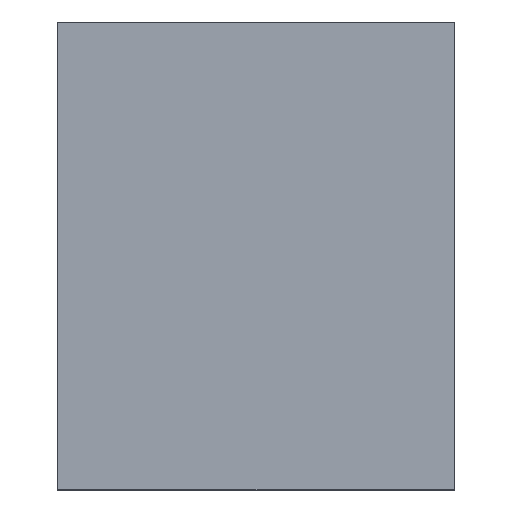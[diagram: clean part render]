
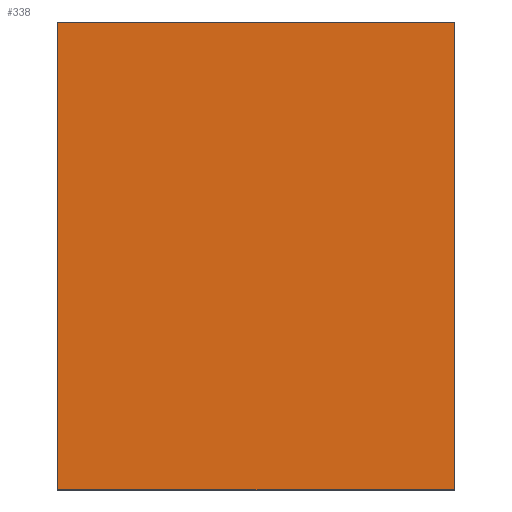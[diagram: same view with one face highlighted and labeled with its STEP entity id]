
A CAD part, top view. The second image highlights one B-rep face of the part: STEP entity #338.
In plain terms, the highlighted planar face has unit normal (0, 0, 1).
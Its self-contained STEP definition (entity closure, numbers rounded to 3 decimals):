
#24 = VERTEX_POINT('',#25);
#25 = CARTESIAN_POINT('',(-8.9,-10.5,3.2));
#32 = PLANE('',#33);
#33 = AXIS2_PLACEMENT_3D('',#34,#35,#36);
#34 = CARTESIAN_POINT('',(-8.9,-10.5,0.));
#35 = DIRECTION('',(1.,0.,0.));
#36 = DIRECTION('',(0.,0.,1.));
#44 = PLANE('',#45);
#45 = AXIS2_PLACEMENT_3D('',#46,#47,#48);
#46 = CARTESIAN_POINT('',(-8.9,-10.5,0.));
#47 = DIRECTION('',(0.,1.,0.));
#48 = DIRECTION('',(0.,0.,1.));
#85 = VERTEX_POINT('',#86);
#86 = CARTESIAN_POINT('',(-8.9,10.5,3.2));
#100 = PLANE('',#101);
#101 = AXIS2_PLACEMENT_3D('',#102,#103,#104);
#102 = CARTESIAN_POINT('',(-8.9,10.5,0.));
#103 = DIRECTION('',(0.,1.,0.));
#104 = DIRECTION('',(0.,0.,1.));
#112 = EDGE_CURVE('',#24,#85,#113,.T.);
#113 = SURFACE_CURVE('',#114,(#118,#125),.PCURVE_S1.);
#114 = LINE('',#115,#116);
#115 = CARTESIAN_POINT('',(-8.9,-10.5,3.2));
#116 = VECTOR('',#117,1.);
#117 = DIRECTION('',(0.,1.,0.));
#118 = PCURVE('',#32,#119);
#119 = DEFINITIONAL_REPRESENTATION('',(#120),#124);
#120 = LINE('',#121,#122);
#121 = CARTESIAN_POINT('',(3.2,0.));
#122 = VECTOR('',#123,1.);
#123 = DIRECTION('',(0.,-1.));
#124 = ( GEOMETRIC_REPRESENTATION_CONTEXT(2) 
PARAMETRIC_REPRESENTATION_CONTEXT() REPRESENTATION_CONTEXT('2D SPACE',''
  ) );
#125 = PCURVE('',#126,#131);
#126 = PLANE('',#127);
#127 = AXIS2_PLACEMENT_3D('',#128,#129,#130);
#128 = CARTESIAN_POINT('',(-8.9,-10.5,3.2));
#129 = DIRECTION('',(0.,0.,1.));
#130 = DIRECTION('',(1.,0.,0.));
#131 = DEFINITIONAL_REPRESENTATION('',(#132),#136);
#132 = LINE('',#133,#134);
#133 = CARTESIAN_POINT('',(0.,0.));
#134 = VECTOR('',#135,1.);
#135 = DIRECTION('',(0.,1.));
#136 = ( GEOMETRIC_REPRESENTATION_CONTEXT(2) 
PARAMETRIC_REPRESENTATION_CONTEXT() REPRESENTATION_CONTEXT('2D SPACE',''
  ) );
#144 = VERTEX_POINT('',#145);
#145 = CARTESIAN_POINT('',(8.9,-10.5,3.2));
#152 = PLANE('',#153);
#153 = AXIS2_PLACEMENT_3D('',#154,#155,#156);
#154 = CARTESIAN_POINT('',(8.9,-10.5,0.));
#155 = DIRECTION('',(1.,0.,0.));
#156 = DIRECTION('',(0.,0.,1.));
#195 = VERTEX_POINT('',#196);
#196 = CARTESIAN_POINT('',(8.9,10.5,3.2));
#217 = EDGE_CURVE('',#144,#195,#218,.T.);
#218 = SURFACE_CURVE('',#219,(#223,#230),.PCURVE_S1.);
#219 = LINE('',#220,#221);
#220 = CARTESIAN_POINT('',(8.9,-10.5,3.2));
#221 = VECTOR('',#222,1.);
#222 = DIRECTION('',(0.,1.,0.));
#223 = PCURVE('',#152,#224);
#224 = DEFINITIONAL_REPRESENTATION('',(#225),#229);
#225 = LINE('',#226,#227);
#226 = CARTESIAN_POINT('',(3.2,0.));
#227 = VECTOR('',#228,1.);
#228 = DIRECTION('',(0.,-1.));
#229 = ( GEOMETRIC_REPRESENTATION_CONTEXT(2) 
PARAMETRIC_REPRESENTATION_CONTEXT() REPRESENTATION_CONTEXT('2D SPACE',''
  ) );
#230 = PCURVE('',#126,#231);
#231 = DEFINITIONAL_REPRESENTATION('',(#232),#236);
#232 = LINE('',#233,#234);
#233 = CARTESIAN_POINT('',(17.8,0.));
#234 = VECTOR('',#235,1.);
#235 = DIRECTION('',(0.,1.));
#236 = ( GEOMETRIC_REPRESENTATION_CONTEXT(2) 
PARAMETRIC_REPRESENTATION_CONTEXT() REPRESENTATION_CONTEXT('2D SPACE',''
  ) );
#263 = EDGE_CURVE('',#24,#144,#264,.T.);
#264 = SURFACE_CURVE('',#265,(#269,#276),.PCURVE_S1.);
#265 = LINE('',#266,#267);
#266 = CARTESIAN_POINT('',(-8.9,-10.5,3.2));
#267 = VECTOR('',#268,1.);
#268 = DIRECTION('',(1.,0.,0.));
#269 = PCURVE('',#44,#270);
#270 = DEFINITIONAL_REPRESENTATION('',(#271),#275);
#271 = LINE('',#272,#273);
#272 = CARTESIAN_POINT('',(3.2,0.));
#273 = VECTOR('',#274,1.);
#274 = DIRECTION('',(0.,1.));
#275 = ( GEOMETRIC_REPRESENTATION_CONTEXT(2) 
PARAMETRIC_REPRESENTATION_CONTEXT() REPRESENTATION_CONTEXT('2D SPACE',''
  ) );
#276 = PCURVE('',#126,#277);
#277 = DEFINITIONAL_REPRESENTATION('',(#278),#282);
#278 = LINE('',#279,#280);
#279 = CARTESIAN_POINT('',(0.,0.));
#280 = VECTOR('',#281,1.);
#281 = DIRECTION('',(1.,0.));
#282 = ( GEOMETRIC_REPRESENTATION_CONTEXT(2) 
PARAMETRIC_REPRESENTATION_CONTEXT() REPRESENTATION_CONTEXT('2D SPACE',''
  ) );
#310 = EDGE_CURVE('',#85,#195,#311,.T.);
#311 = SURFACE_CURVE('',#312,(#316,#323),.PCURVE_S1.);
#312 = LINE('',#313,#314);
#313 = CARTESIAN_POINT('',(-8.9,10.5,3.2));
#314 = VECTOR('',#315,1.);
#315 = DIRECTION('',(1.,0.,0.));
#316 = PCURVE('',#100,#317);
#317 = DEFINITIONAL_REPRESENTATION('',(#318),#322);
#318 = LINE('',#319,#320);
#319 = CARTESIAN_POINT('',(3.2,0.));
#320 = VECTOR('',#321,1.);
#321 = DIRECTION('',(0.,1.));
#322 = ( GEOMETRIC_REPRESENTATION_CONTEXT(2) 
PARAMETRIC_REPRESENTATION_CONTEXT() REPRESENTATION_CONTEXT('2D SPACE',''
  ) );
#323 = PCURVE('',#126,#324);
#324 = DEFINITIONAL_REPRESENTATION('',(#325),#329);
#325 = LINE('',#326,#327);
#326 = CARTESIAN_POINT('',(0.,21.));
#327 = VECTOR('',#328,1.);
#328 = DIRECTION('',(1.,0.));
#329 = ( GEOMETRIC_REPRESENTATION_CONTEXT(2) 
PARAMETRIC_REPRESENTATION_CONTEXT() REPRESENTATION_CONTEXT('2D SPACE',''
  ) );
#338 = ADVANCED_FACE('',(#339),#126,.T.);
#339 = FACE_BOUND('',#340,.T.);
#340 = EDGE_LOOP('',(#341,#342,#343,#344));
#341 = ORIENTED_EDGE('',*,*,#112,.F.);
#342 = ORIENTED_EDGE('',*,*,#263,.T.);
#343 = ORIENTED_EDGE('',*,*,#217,.T.);
#344 = ORIENTED_EDGE('',*,*,#310,.F.);
